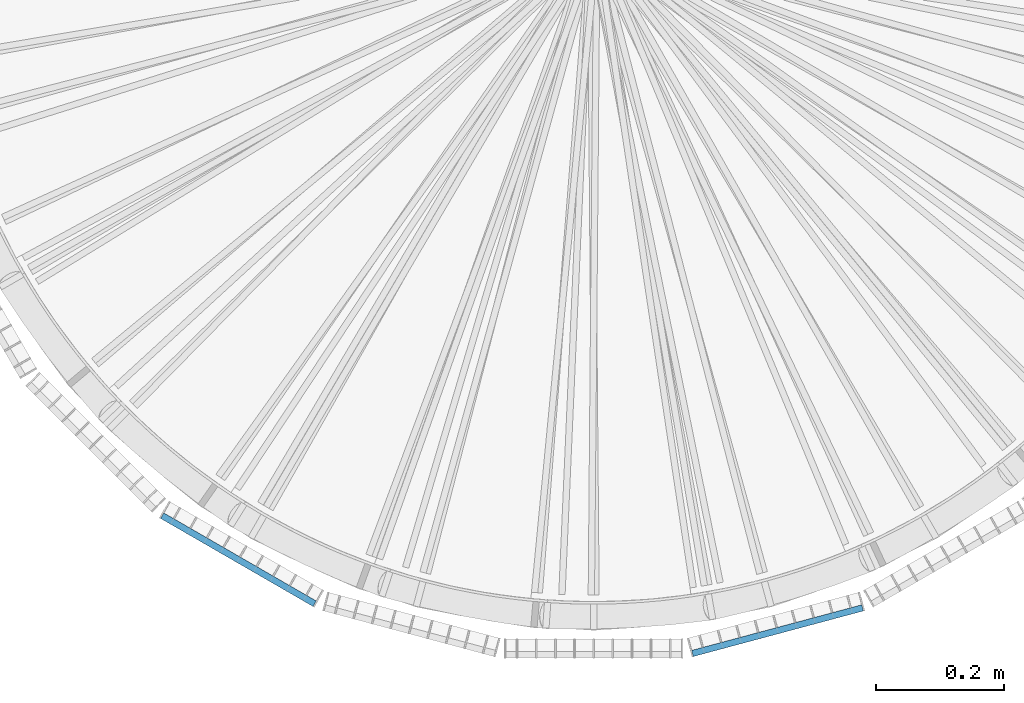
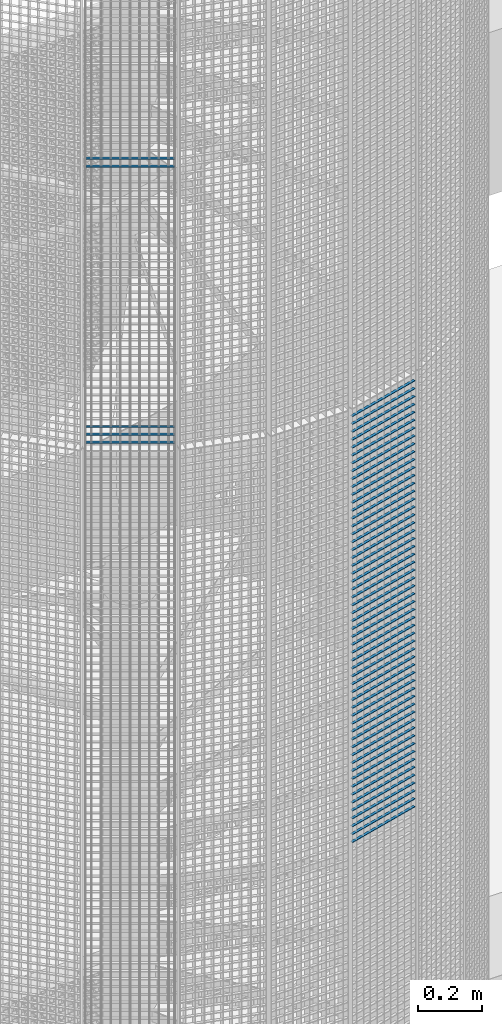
# One storey, part 140 of 1148: 60 beams, 2 elements without a shape of their own.
"""IFC2X3 building model written with IfcOpenShell, lengths in millimetres."""

from ifc_helpers import new_model, si_unit, frame, origin_with_axes, origin_2d_with_axis, place, context, subcontext, project, spatial, rectangle, extrude, material, type_object, element, aggregate, save


model = new_model("IFC2X3")

# Units and contexts
model_context = context("Model", 3, precision=1e-05, world=origin_with_axes())
body_context = subcontext(model_context, "Body", "Model", "MODEL_VIEW")
ifc_project = project(units=[si_unit("LENGTHUNIT", "METRE", prefix="MILLI"), si_unit("AREAUNIT", "SQUARE_METRE"), si_unit("VOLUMEUNIT", "CUBIC_METRE"), si_unit("MASSUNIT", "GRAM", prefix="KILO"), si_unit("TIMEUNIT", "SECOND"), si_unit("PLANEANGLEUNIT", "RADIAN"), si_unit("SOLIDANGLEUNIT", "STERADIAN"), si_unit("THERMODYNAMICTEMPERATUREUNIT", "DEGREE_CELSIUS"), si_unit("LUMINOUSINTENSITYUNIT", "LUMEN")], contexts=[model_context])

# Site, building, storey
site_placement = place(None, origin_with_axes())
site = spatial("IfcSite", under=ifc_project, at=site_placement, Name="Undefined", CompositionType="ELEMENT")
building_placement = place(site_placement, origin_with_axes())
building = spatial("IfcBuilding", under=site, at=building_placement, Name="Undefined", CompositionType="ELEMENT")
storey_placement = place(building_placement, origin_with_axes())
storey = spatial("IfcBuildingStorey", under=building, at=storey_placement, Name="Undefined", CompositionType="ELEMENT", Elevation=0.0)

# Assembly, beams
assembly_1_placement = place(storey_placement, origin_with_axes())
assembly_1 = element("IfcElementAssembly", 1, at=assembly_1_placement, inside=storey, Name="BORDURE", AssemblyPlace="NOTDEFINED", PredefinedType="NOTDEFINED")
ifc_material = material(Name="STEEL/S235JR")
beam_type = type_object("IfcBeamType", Name="PL2*10", PredefinedType="NOTDEFINED")
beam_1_placement = place(assembly_1_placement, frame((-676.248044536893, -895.303964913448, 16080.0), z_axis=(-0.49999999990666, -0.866025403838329, 0.0), x_axis=(0.866025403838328, -0.49999999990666, 0.0)))
beam_1 = element("IfcBeam", 2, at=beam_1_placement, type_object=beam_type, material=ifc_material, Name="ENTRETOISE", context=body_context, shape_type="SweptSolid", body=[
    extrude(rectangle(XDim=2.0, YDim=10.0, at=origin_2d_with_axis()), frame((275.999999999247, 9.09494701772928e-13, 1.53210777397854e-14), z_axis=(-1.0, 0.0, 0.0), x_axis=(0.0, -1.0, 0.0)), (0.0, 0.0, 1.0), 276.0),
])
beam_2_placement = place(assembly_1_placement, frame((-676.248044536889, -895.30396491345, 15090.0), z_axis=(-0.49999999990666, -0.866025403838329, 0.0), x_axis=(0.866025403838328, -0.49999999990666, 0.0)))
beam_2 = element("IfcBeam", 3, at=beam_2_placement, type_object=beam_type, material=ifc_material, Name="ENTRETOISE", context=body_context, shape_type="SweptSolid", body=[
    extrude(rectangle(XDim=2.0, YDim=10.0, at=origin_2d_with_axis()), frame((275.999999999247, 9.09494701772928e-13, 1.53210777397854e-14), z_axis=(-1.0, 0.0, 0.0), x_axis=(0.0, -1.0, 0.0)), (0.0, 0.0, 1.0), 276.0),
])
beam_3_placement = place(assembly_1_placement, frame((-676.248044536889, -895.30396491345, 15060.0), z_axis=(-0.49999999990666, -0.866025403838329, 0.0), x_axis=(0.866025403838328, -0.49999999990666, 0.0)))
beam_3 = element("IfcBeam", 4, at=beam_3_placement, type_object=beam_type, material=ifc_material, Name="ENTRETOISE", context=body_context, shape_type="SweptSolid", body=[
    extrude(rectangle(XDim=2.0, YDim=10.0, at=origin_2d_with_axis()), frame((275.999999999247, 9.09494701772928e-13, 1.53210777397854e-14), z_axis=(-1.0, 0.0, 0.0), x_axis=(0.0, -1.0, 0.0)), (0.0, 0.0, 1.0), 276.0),
])
beam_4_placement = place(assembly_1_placement, frame((-676.248044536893, -895.303964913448, 16110.0), z_axis=(-0.49999999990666, -0.866025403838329, 0.0), x_axis=(0.866025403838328, -0.49999999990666, 0.0)))
beam_4 = element("IfcBeam", 5, at=beam_4_placement, type_object=beam_type, material=ifc_material, Name="ENTRETOISE", context=body_context, shape_type="SweptSolid", body=[
    extrude(rectangle(XDim=2.0, YDim=10.0, at=origin_2d_with_axis()), frame((275.999999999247, 9.09494701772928e-13, 1.53210777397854e-14), z_axis=(-1.0, 0.0, 0.0), x_axis=(0.0, -1.0, 0.0)), (0.0, 0.0, 1.0), 276.0),
])
beam_5_placement = place(assembly_1_placement, frame((-676.248044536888, -895.30396491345, 15030.0), z_axis=(-0.49999999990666, -0.866025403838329, 0.0), x_axis=(0.866025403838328, -0.49999999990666, 0.0)))
beam_5 = element("IfcBeam", 6, at=beam_5_placement, type_object=beam_type, material=ifc_material, Name="ENTRETOISE", context=body_context, shape_type="SweptSolid", body=[
    extrude(rectangle(XDim=2.0, YDim=10.0, at=origin_2d_with_axis()), frame((275.999999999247, 9.09494701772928e-13, 1.53210777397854e-14), z_axis=(-1.0, 0.0, 0.0), x_axis=(0.0, -1.0, 0.0)), (0.0, 0.0, 1.0), 276.0),
])
aggregate(assembly_1, [beam_1, beam_2, beam_3, beam_4, beam_5])

assembly_2_placement = place(storey_placement, origin_with_axes())
assembly_2 = element("IfcElementAssembly", 7, at=assembly_2_placement, inside=storey, Name="BORDURE", AssemblyPlace="NOTDEFINED", PredefinedType="NOTDEFINED")
beam_6_placement = place(assembly_2_placement, frame((154.895926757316, -1111.25508286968, 14970.0), z_axis=(0.258819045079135, -0.965925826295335, 0.0), x_axis=(0.965925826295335, 0.258819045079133, 0.0)))
beam_6 = element("IfcBeam", 8, at=beam_6_placement, type_object=beam_type, material=ifc_material, Name="ENTRETOISE", context=body_context, shape_type="SweptSolid", body=[
    extrude(rectangle(XDim=2.0, YDim=10.0, at=origin_2d_with_axis()), frame((275.999999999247, 9.09494701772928e-13, 1.53210777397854e-14), z_axis=(-1.0, 0.0, 0.0), x_axis=(0.0, -1.0, 0.0)), (0.0, 0.0, 1.0), 276.0),
])
beam_7_placement = place(assembly_2_placement, frame((154.895926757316, -1111.25508286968, 14940.0), z_axis=(0.258819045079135, -0.965925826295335, 0.0), x_axis=(0.965925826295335, 0.258819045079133, 0.0)))
beam_7 = element("IfcBeam", 9, at=beam_7_placement, type_object=beam_type, material=ifc_material, Name="ENTRETOISE", context=body_context, shape_type="SweptSolid", body=[
    extrude(rectangle(XDim=2.0, YDim=10.0, at=origin_2d_with_axis()), frame((275.999999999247, 9.09494701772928e-13, 1.53210777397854e-14), z_axis=(-1.0, 0.0, 0.0), x_axis=(0.0, -1.0, 0.0)), (0.0, 0.0, 1.0), 276.0),
])
beam_8_placement = place(assembly_2_placement, frame((154.895926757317, -1111.25508286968, 14910.0), z_axis=(0.258819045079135, -0.965925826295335, 0.0), x_axis=(0.965925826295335, 0.258819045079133, 0.0)))
beam_8 = element("IfcBeam", 10, at=beam_8_placement, type_object=beam_type, material=ifc_material, Name="ENTRETOISE", context=body_context, shape_type="SweptSolid", body=[
    extrude(rectangle(XDim=2.0, YDim=10.0, at=origin_2d_with_axis()), frame((275.999999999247, 9.09494701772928e-13, 1.53210777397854e-14), z_axis=(-1.0, 0.0, 0.0), x_axis=(0.0, -1.0, 0.0)), (0.0, 0.0, 1.0), 276.0),
])
beam_9_placement = place(assembly_2_placement, frame((154.895926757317, -1111.25508286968, 14880.0), z_axis=(0.258819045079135, -0.965925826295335, 0.0), x_axis=(0.965925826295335, 0.258819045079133, 0.0)))
beam_9 = element("IfcBeam", 11, at=beam_9_placement, type_object=beam_type, material=ifc_material, Name="ENTRETOISE", context=body_context, shape_type="SweptSolid", body=[
    extrude(rectangle(XDim=2.0, YDim=10.0, at=origin_2d_with_axis()), frame((275.999999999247, 9.09494701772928e-13, 1.53210777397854e-14), z_axis=(-1.0, 0.0, 0.0), x_axis=(0.0, -1.0, 0.0)), (0.0, 0.0, 1.0), 276.0),
])
beam_10_placement = place(assembly_2_placement, frame((154.895926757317, -1111.25508286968, 14850.0), z_axis=(0.258819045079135, -0.965925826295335, 0.0), x_axis=(0.965925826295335, 0.258819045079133, 0.0)))
beam_10 = element("IfcBeam", 12, at=beam_10_placement, type_object=beam_type, material=ifc_material, Name="ENTRETOISE", context=body_context, shape_type="SweptSolid", body=[
    extrude(rectangle(XDim=2.0, YDim=10.0, at=origin_2d_with_axis()), frame((275.999999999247, 9.09494701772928e-13, 1.53210777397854e-14), z_axis=(-1.0, 0.0, 0.0), x_axis=(0.0, -1.0, 0.0)), (0.0, 0.0, 1.0), 276.0),
])
beam_11_placement = place(assembly_2_placement, frame((154.895926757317, -1111.25508286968, 14820.0), z_axis=(0.258819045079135, -0.965925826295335, 0.0), x_axis=(0.965925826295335, 0.258819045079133, 0.0)))
beam_11 = element("IfcBeam", 13, at=beam_11_placement, type_object=beam_type, material=ifc_material, Name="ENTRETOISE", context=body_context, shape_type="SweptSolid", body=[
    extrude(rectangle(XDim=2.0, YDim=10.0, at=origin_2d_with_axis()), frame((275.999999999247, 9.09494701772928e-13, 1.53210777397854e-14), z_axis=(-1.0, 0.0, 0.0), x_axis=(0.0, -1.0, 0.0)), (0.0, 0.0, 1.0), 276.0),
])
beam_12_placement = place(assembly_2_placement, frame((154.895926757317, -1111.25508286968, 14790.0), z_axis=(0.258819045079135, -0.965925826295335, 0.0), x_axis=(0.965925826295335, 0.258819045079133, 0.0)))
beam_12 = element("IfcBeam", 14, at=beam_12_placement, type_object=beam_type, material=ifc_material, Name="ENTRETOISE", context=body_context, shape_type="SweptSolid", body=[
    extrude(rectangle(XDim=2.0, YDim=10.0, at=origin_2d_with_axis()), frame((275.999999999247, 9.09494701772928e-13, 1.53210777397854e-14), z_axis=(-1.0, 0.0, 0.0), x_axis=(0.0, -1.0, 0.0)), (0.0, 0.0, 1.0), 276.0),
])
beam_13_placement = place(assembly_2_placement, frame((154.895926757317, -1111.25508286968, 14760.0), z_axis=(0.258819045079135, -0.965925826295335, 0.0), x_axis=(0.965925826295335, 0.258819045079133, 0.0)))
beam_13 = element("IfcBeam", 15, at=beam_13_placement, type_object=beam_type, material=ifc_material, Name="ENTRETOISE", context=body_context, shape_type="SweptSolid", body=[
    extrude(rectangle(XDim=2.0, YDim=10.0, at=origin_2d_with_axis()), frame((275.999999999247, 9.09494701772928e-13, 1.53210777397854e-14), z_axis=(-1.0, 0.0, 0.0), x_axis=(0.0, -1.0, 0.0)), (0.0, 0.0, 1.0), 276.0),
])
beam_14_placement = place(assembly_2_placement, frame((154.895926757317, -1111.25508286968, 14730.0), z_axis=(0.258819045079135, -0.965925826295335, 0.0), x_axis=(0.965925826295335, 0.258819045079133, 0.0)))
beam_14 = element("IfcBeam", 16, at=beam_14_placement, type_object=beam_type, material=ifc_material, Name="ENTRETOISE", context=body_context, shape_type="SweptSolid", body=[
    extrude(rectangle(XDim=2.0, YDim=10.0, at=origin_2d_with_axis()), frame((275.999999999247, 9.09494701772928e-13, 1.53210777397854e-14), z_axis=(-1.0, 0.0, 0.0), x_axis=(0.0, -1.0, 0.0)), (0.0, 0.0, 1.0), 276.0),
])
beam_15_placement = place(assembly_2_placement, frame((154.895926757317, -1111.25508286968, 14700.0), z_axis=(0.258819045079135, -0.965925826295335, 0.0), x_axis=(0.965925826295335, 0.258819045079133, 0.0)))
beam_15 = element("IfcBeam", 17, at=beam_15_placement, type_object=beam_type, material=ifc_material, Name="ENTRETOISE", context=body_context, shape_type="SweptSolid", body=[
    extrude(rectangle(XDim=2.0, YDim=10.0, at=origin_2d_with_axis()), frame((275.999999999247, 9.09494701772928e-13, 1.53210777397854e-14), z_axis=(-1.0, 0.0, 0.0), x_axis=(0.0, -1.0, 0.0)), (0.0, 0.0, 1.0), 276.0),
])
beam_16_placement = place(assembly_2_placement, frame((154.895926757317, -1111.25508286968, 14670.0), z_axis=(0.258819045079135, -0.965925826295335, 0.0), x_axis=(0.965925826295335, 0.258819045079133, 0.0)))
beam_16 = element("IfcBeam", 18, at=beam_16_placement, type_object=beam_type, material=ifc_material, Name="ENTRETOISE", context=body_context, shape_type="SweptSolid", body=[
    extrude(rectangle(XDim=2.0, YDim=10.0, at=origin_2d_with_axis()), frame((275.999999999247, 9.09494701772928e-13, 1.53210777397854e-14), z_axis=(-1.0, 0.0, 0.0), x_axis=(0.0, -1.0, 0.0)), (0.0, 0.0, 1.0), 276.0),
])
beam_17_placement = place(assembly_2_placement, frame((154.895926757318, -1111.25508286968, 14640.0), z_axis=(0.258819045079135, -0.965925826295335, 0.0), x_axis=(0.965925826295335, 0.258819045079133, 0.0)))
beam_17 = element("IfcBeam", 19, at=beam_17_placement, type_object=beam_type, material=ifc_material, Name="ENTRETOISE", context=body_context, shape_type="SweptSolid", body=[
    extrude(rectangle(XDim=2.0, YDim=10.0, at=origin_2d_with_axis()), frame((275.999999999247, 9.09494701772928e-13, 1.53210777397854e-14), z_axis=(-1.0, 0.0, 0.0), x_axis=(0.0, -1.0, 0.0)), (0.0, 0.0, 1.0), 276.0),
])
beam_18_placement = place(assembly_2_placement, frame((154.895926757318, -1111.25508286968, 14610.0), z_axis=(0.258819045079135, -0.965925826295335, 0.0), x_axis=(0.965925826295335, 0.258819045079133, 0.0)))
beam_18 = element("IfcBeam", 20, at=beam_18_placement, type_object=beam_type, material=ifc_material, Name="ENTRETOISE", context=body_context, shape_type="SweptSolid", body=[
    extrude(rectangle(XDim=2.0, YDim=10.0, at=origin_2d_with_axis()), frame((275.999999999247, 9.09494701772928e-13, 1.53210777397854e-14), z_axis=(-1.0, 0.0, 0.0), x_axis=(0.0, -1.0, 0.0)), (0.0, 0.0, 1.0), 276.0),
])
beam_19_placement = place(assembly_2_placement, frame((154.895926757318, -1111.25508286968, 14580.0), z_axis=(0.258819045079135, -0.965925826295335, 0.0), x_axis=(0.965925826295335, 0.258819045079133, 0.0)))
beam_19 = element("IfcBeam", 21, at=beam_19_placement, type_object=beam_type, material=ifc_material, Name="ENTRETOISE", context=body_context, shape_type="SweptSolid", body=[
    extrude(rectangle(XDim=2.0, YDim=10.0, at=origin_2d_with_axis()), frame((275.999999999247, 9.09494701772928e-13, 1.53210777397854e-14), z_axis=(-1.0, 0.0, 0.0), x_axis=(0.0, -1.0, 0.0)), (0.0, 0.0, 1.0), 276.0),
])
beam_20_placement = place(assembly_2_placement, frame((154.895926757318, -1111.25508286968, 14550.0), z_axis=(0.258819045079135, -0.965925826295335, 0.0), x_axis=(0.965925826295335, 0.258819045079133, 0.0)))
beam_20 = element("IfcBeam", 22, at=beam_20_placement, type_object=beam_type, material=ifc_material, Name="ENTRETOISE", context=body_context, shape_type="SweptSolid", body=[
    extrude(rectangle(XDim=2.0, YDim=10.0, at=origin_2d_with_axis()), frame((275.999999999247, 9.09494701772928e-13, 1.53210777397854e-14), z_axis=(-1.0, 0.0, 0.0), x_axis=(0.0, -1.0, 0.0)), (0.0, 0.0, 1.0), 276.0),
])
beam_21_placement = place(assembly_2_placement, frame((154.895926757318, -1111.25508286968, 14520.0), z_axis=(0.258819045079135, -0.965925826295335, 0.0), x_axis=(0.965925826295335, 0.258819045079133, 0.0)))
beam_21 = element("IfcBeam", 23, at=beam_21_placement, type_object=beam_type, material=ifc_material, Name="ENTRETOISE", context=body_context, shape_type="SweptSolid", body=[
    extrude(rectangle(XDim=2.0, YDim=10.0, at=origin_2d_with_axis()), frame((275.999999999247, 9.09494701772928e-13, 1.53210777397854e-14), z_axis=(-1.0, 0.0, 0.0), x_axis=(0.0, -1.0, 0.0)), (0.0, 0.0, 1.0), 276.0),
])
beam_22_placement = place(assembly_2_placement, frame((154.895926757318, -1111.25508286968, 14490.0), z_axis=(0.258819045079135, -0.965925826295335, 0.0), x_axis=(0.965925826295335, 0.258819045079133, 0.0)))
beam_22 = element("IfcBeam", 24, at=beam_22_placement, type_object=beam_type, material=ifc_material, Name="ENTRETOISE", context=body_context, shape_type="SweptSolid", body=[
    extrude(rectangle(XDim=2.0, YDim=10.0, at=origin_2d_with_axis()), frame((275.999999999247, 9.09494701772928e-13, 1.53210777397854e-14), z_axis=(-1.0, 0.0, 0.0), x_axis=(0.0, -1.0, 0.0)), (0.0, 0.0, 1.0), 276.0),
])
beam_23_placement = place(assembly_2_placement, frame((154.895926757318, -1111.25508286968, 14460.0), z_axis=(0.258819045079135, -0.965925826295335, 0.0), x_axis=(0.965925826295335, 0.258819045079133, 0.0)))
beam_23 = element("IfcBeam", 25, at=beam_23_placement, type_object=beam_type, material=ifc_material, Name="ENTRETOISE", context=body_context, shape_type="SweptSolid", body=[
    extrude(rectangle(XDim=2.0, YDim=10.0, at=origin_2d_with_axis()), frame((275.999999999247, 9.09494701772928e-13, 1.53210777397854e-14), z_axis=(-1.0, 0.0, 0.0), x_axis=(0.0, -1.0, 0.0)), (0.0, 0.0, 1.0), 276.0),
])
beam_24_placement = place(assembly_2_placement, frame((154.895926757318, -1111.25508286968, 14430.0), z_axis=(0.258819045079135, -0.965925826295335, 0.0), x_axis=(0.965925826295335, 0.258819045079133, 0.0)))
beam_24 = element("IfcBeam", 26, at=beam_24_placement, type_object=beam_type, material=ifc_material, Name="ENTRETOISE", context=body_context, shape_type="SweptSolid", body=[
    extrude(rectangle(XDim=2.0, YDim=10.0, at=origin_2d_with_axis()), frame((275.999999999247, 9.09494701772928e-13, 1.53210777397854e-14), z_axis=(-1.0, 0.0, 0.0), x_axis=(0.0, -1.0, 0.0)), (0.0, 0.0, 1.0), 276.0),
])
beam_25_placement = place(assembly_2_placement, frame((154.895926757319, -1111.25508286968, 14400.0), z_axis=(0.258819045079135, -0.965925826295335, 0.0), x_axis=(0.965925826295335, 0.258819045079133, 0.0)))
beam_25 = element("IfcBeam", 27, at=beam_25_placement, type_object=beam_type, material=ifc_material, Name="ENTRETOISE", context=body_context, shape_type="SweptSolid", body=[
    extrude(rectangle(XDim=2.0, YDim=10.0, at=origin_2d_with_axis()), frame((275.999999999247, 9.09494701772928e-13, 1.53210777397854e-14), z_axis=(-1.0, 0.0, 0.0), x_axis=(0.0, -1.0, 0.0)), (0.0, 0.0, 1.0), 276.0),
])
beam_26_placement = place(assembly_2_placement, frame((154.895926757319, -1111.25508286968, 14370.0), z_axis=(0.258819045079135, -0.965925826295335, 0.0), x_axis=(0.965925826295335, 0.258819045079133, 0.0)))
beam_26 = element("IfcBeam", 28, at=beam_26_placement, type_object=beam_type, material=ifc_material, Name="ENTRETOISE", context=body_context, shape_type="SweptSolid", body=[
    extrude(rectangle(XDim=2.0, YDim=10.0, at=origin_2d_with_axis()), frame((275.999999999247, 9.09494701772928e-13, 1.53210777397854e-14), z_axis=(-1.0, 0.0, 0.0), x_axis=(0.0, -1.0, 0.0)), (0.0, 0.0, 1.0), 276.0),
])
beam_27_placement = place(assembly_2_placement, frame((154.895926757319, -1111.25508286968, 14340.0), z_axis=(0.258819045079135, -0.965925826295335, 0.0), x_axis=(0.965925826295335, 0.258819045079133, 0.0)))
beam_27 = element("IfcBeam", 29, at=beam_27_placement, type_object=beam_type, material=ifc_material, Name="ENTRETOISE", context=body_context, shape_type="SweptSolid", body=[
    extrude(rectangle(XDim=2.0, YDim=10.0, at=origin_2d_with_axis()), frame((275.999999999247, 9.09494701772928e-13, 1.53210777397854e-14), z_axis=(-1.0, 0.0, 0.0), x_axis=(0.0, -1.0, 0.0)), (0.0, 0.0, 1.0), 276.0),
])
beam_28_placement = place(assembly_2_placement, frame((154.895926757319, -1111.25508286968, 14310.0), z_axis=(0.258819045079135, -0.965925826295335, 0.0), x_axis=(0.965925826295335, 0.258819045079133, 0.0)))
beam_28 = element("IfcBeam", 30, at=beam_28_placement, type_object=beam_type, material=ifc_material, Name="ENTRETOISE", context=body_context, shape_type="SweptSolid", body=[
    extrude(rectangle(XDim=2.0, YDim=10.0, at=origin_2d_with_axis()), frame((275.999999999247, 9.09494701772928e-13, 1.53210777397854e-14), z_axis=(-1.0, 0.0, 0.0), x_axis=(0.0, -1.0, 0.0)), (0.0, 0.0, 1.0), 276.0),
])
beam_29_placement = place(assembly_2_placement, frame((154.895926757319, -1111.25508286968, 14280.0), z_axis=(0.258819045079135, -0.965925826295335, 0.0), x_axis=(0.965925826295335, 0.258819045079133, 0.0)))
beam_29 = element("IfcBeam", 31, at=beam_29_placement, type_object=beam_type, material=ifc_material, Name="ENTRETOISE", context=body_context, shape_type="SweptSolid", body=[
    extrude(rectangle(XDim=2.0, YDim=10.0, at=origin_2d_with_axis()), frame((275.999999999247, 9.09494701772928e-13, 1.53210777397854e-14), z_axis=(-1.0, 0.0, 0.0), x_axis=(0.0, -1.0, 0.0)), (0.0, 0.0, 1.0), 276.0),
])
beam_30_placement = place(assembly_2_placement, frame((154.895926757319, -1111.25508286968, 14250.0), z_axis=(0.258819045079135, -0.965925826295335, 0.0), x_axis=(0.965925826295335, 0.258819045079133, 0.0)))
beam_30 = element("IfcBeam", 32, at=beam_30_placement, type_object=beam_type, material=ifc_material, Name="ENTRETOISE", context=body_context, shape_type="SweptSolid", body=[
    extrude(rectangle(XDim=2.0, YDim=10.0, at=origin_2d_with_axis()), frame((275.999999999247, 9.09494701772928e-13, 1.53210777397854e-14), z_axis=(-1.0, 0.0, 0.0), x_axis=(0.0, -1.0, 0.0)), (0.0, 0.0, 1.0), 276.0),
])
beam_31_placement = place(assembly_2_placement, frame((154.895926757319, -1111.25508286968, 14220.0), z_axis=(0.258819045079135, -0.965925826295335, 0.0), x_axis=(0.965925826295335, 0.258819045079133, 0.0)))
beam_31 = element("IfcBeam", 33, at=beam_31_placement, type_object=beam_type, material=ifc_material, Name="ENTRETOISE", context=body_context, shape_type="SweptSolid", body=[
    extrude(rectangle(XDim=2.0, YDim=10.0, at=origin_2d_with_axis()), frame((275.999999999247, 9.09494701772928e-13, 1.53210777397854e-14), z_axis=(-1.0, 0.0, 0.0), x_axis=(0.0, -1.0, 0.0)), (0.0, 0.0, 1.0), 276.0),
])
beam_32_placement = place(assembly_2_placement, frame((154.895926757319, -1111.25508286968, 14190.0), z_axis=(0.258819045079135, -0.965925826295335, 0.0), x_axis=(0.965925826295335, 0.258819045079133, 0.0)))
beam_32 = element("IfcBeam", 34, at=beam_32_placement, type_object=beam_type, material=ifc_material, Name="ENTRETOISE", context=body_context, shape_type="SweptSolid", body=[
    extrude(rectangle(XDim=2.0, YDim=10.0, at=origin_2d_with_axis()), frame((275.999999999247, 9.09494701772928e-13, 1.53210777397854e-14), z_axis=(-1.0, 0.0, 0.0), x_axis=(0.0, -1.0, 0.0)), (0.0, 0.0, 1.0), 276.0),
])
beam_33_placement = place(assembly_2_placement, frame((154.895926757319, -1111.25508286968, 14160.0), z_axis=(0.258819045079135, -0.965925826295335, 0.0), x_axis=(0.965925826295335, 0.258819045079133, 0.0)))
beam_33 = element("IfcBeam", 35, at=beam_33_placement, type_object=beam_type, material=ifc_material, Name="ENTRETOISE", context=body_context, shape_type="SweptSolid", body=[
    extrude(rectangle(XDim=2.0, YDim=10.0, at=origin_2d_with_axis()), frame((275.999999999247, 9.09494701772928e-13, 1.53210777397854e-14), z_axis=(-1.0, 0.0, 0.0), x_axis=(0.0, -1.0, 0.0)), (0.0, 0.0, 1.0), 276.0),
])
beam_34_placement = place(assembly_2_placement, frame((154.89592675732, -1111.25508286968, 14130.0), z_axis=(0.258819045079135, -0.965925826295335, 0.0), x_axis=(0.965925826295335, 0.258819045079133, 0.0)))
beam_34 = element("IfcBeam", 36, at=beam_34_placement, type_object=beam_type, material=ifc_material, Name="ENTRETOISE", context=body_context, shape_type="SweptSolid", body=[
    extrude(rectangle(XDim=2.0, YDim=10.0, at=origin_2d_with_axis()), frame((275.999999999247, 9.09494701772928e-13, 1.53210777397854e-14), z_axis=(-1.0, 0.0, 0.0), x_axis=(0.0, -1.0, 0.0)), (0.0, 0.0, 1.0), 276.0),
])
beam_35_placement = place(assembly_2_placement, frame((154.89592675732, -1111.25508286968, 14100.0), z_axis=(0.258819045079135, -0.965925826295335, 0.0), x_axis=(0.965925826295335, 0.258819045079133, 0.0)))
beam_35 = element("IfcBeam", 37, at=beam_35_placement, type_object=beam_type, material=ifc_material, Name="ENTRETOISE", context=body_context, shape_type="SweptSolid", body=[
    extrude(rectangle(XDim=2.0, YDim=10.0, at=origin_2d_with_axis()), frame((275.999999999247, 9.09494701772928e-13, 1.53210777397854e-14), z_axis=(-1.0, 0.0, 0.0), x_axis=(0.0, -1.0, 0.0)), (0.0, 0.0, 1.0), 276.0),
])
beam_36_placement = place(assembly_2_placement, frame((154.89592675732, -1111.25508286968, 14070.0), z_axis=(0.258819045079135, -0.965925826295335, 0.0), x_axis=(0.965925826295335, 0.258819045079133, 0.0)))
beam_36 = element("IfcBeam", 38, at=beam_36_placement, type_object=beam_type, material=ifc_material, Name="ENTRETOISE", context=body_context, shape_type="SweptSolid", body=[
    extrude(rectangle(XDim=2.0, YDim=10.0, at=origin_2d_with_axis()), frame((275.999999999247, 9.09494701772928e-13, 1.53210777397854e-14), z_axis=(-1.0, 0.0, 0.0), x_axis=(0.0, -1.0, 0.0)), (0.0, 0.0, 1.0), 276.0),
])
beam_37_placement = place(assembly_2_placement, frame((154.89592675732, -1111.25508286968, 14040.0), z_axis=(0.258819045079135, -0.965925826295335, 0.0), x_axis=(0.965925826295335, 0.258819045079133, 0.0)))
beam_37 = element("IfcBeam", 39, at=beam_37_placement, type_object=beam_type, material=ifc_material, Name="ENTRETOISE", context=body_context, shape_type="SweptSolid", body=[
    extrude(rectangle(XDim=2.0, YDim=10.0, at=origin_2d_with_axis()), frame((275.999999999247, 9.09494701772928e-13, 1.53210777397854e-14), z_axis=(-1.0, 0.0, 0.0), x_axis=(0.0, -1.0, 0.0)), (0.0, 0.0, 1.0), 276.0),
])
beam_38_placement = place(assembly_2_placement, frame((154.89592675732, -1111.25508286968, 14010.0), z_axis=(0.258819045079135, -0.965925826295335, 0.0), x_axis=(0.965925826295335, 0.258819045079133, 0.0)))
beam_38 = element("IfcBeam", 40, at=beam_38_placement, type_object=beam_type, material=ifc_material, Name="ENTRETOISE", context=body_context, shape_type="SweptSolid", body=[
    extrude(rectangle(XDim=2.0, YDim=10.0, at=origin_2d_with_axis()), frame((275.999999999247, 9.09494701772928e-13, 1.53210777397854e-14), z_axis=(-1.0, 0.0, 0.0), x_axis=(0.0, -1.0, 0.0)), (0.0, 0.0, 1.0), 276.0),
])
beam_39_placement = place(assembly_2_placement, frame((154.89592675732, -1111.25508286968, 13980.0), z_axis=(0.258819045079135, -0.965925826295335, 0.0), x_axis=(0.965925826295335, 0.258819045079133, 0.0)))
beam_39 = element("IfcBeam", 41, at=beam_39_placement, type_object=beam_type, material=ifc_material, Name="ENTRETOISE", context=body_context, shape_type="SweptSolid", body=[
    extrude(rectangle(XDim=2.0, YDim=10.0, at=origin_2d_with_axis()), frame((275.999999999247, 9.09494701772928e-13, 1.53210777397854e-14), z_axis=(-1.0, 0.0, 0.0), x_axis=(0.0, -1.0, 0.0)), (0.0, 0.0, 1.0), 276.0),
])
beam_40_placement = place(assembly_2_placement, frame((154.89592675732, -1111.25508286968, 13950.0), z_axis=(0.258819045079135, -0.965925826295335, 0.0), x_axis=(0.965925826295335, 0.258819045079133, 0.0)))
beam_40 = element("IfcBeam", 42, at=beam_40_placement, type_object=beam_type, material=ifc_material, Name="ENTRETOISE", context=body_context, shape_type="SweptSolid", body=[
    extrude(rectangle(XDim=2.0, YDim=10.0, at=origin_2d_with_axis()), frame((275.999999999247, 9.09494701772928e-13, 1.53210777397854e-14), z_axis=(-1.0, 0.0, 0.0), x_axis=(0.0, -1.0, 0.0)), (0.0, 0.0, 1.0), 276.0),
])
beam_41_placement = place(assembly_2_placement, frame((154.89592675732, -1111.25508286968, 13920.0), z_axis=(0.258819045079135, -0.965925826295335, 0.0), x_axis=(0.965925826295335, 0.258819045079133, 0.0)))
beam_41 = element("IfcBeam", 43, at=beam_41_placement, type_object=beam_type, material=ifc_material, Name="ENTRETOISE", context=body_context, shape_type="SweptSolid", body=[
    extrude(rectangle(XDim=2.0, YDim=10.0, at=origin_2d_with_axis()), frame((275.999999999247, 9.09494701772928e-13, 1.53210777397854e-14), z_axis=(-1.0, 0.0, 0.0), x_axis=(0.0, -1.0, 0.0)), (0.0, 0.0, 1.0), 276.0),
])
beam_42_placement = place(assembly_2_placement, frame((154.89592675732, -1111.25508286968, 13890.0), z_axis=(0.258819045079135, -0.965925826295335, 0.0), x_axis=(0.965925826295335, 0.258819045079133, 0.0)))
beam_42 = element("IfcBeam", 44, at=beam_42_placement, type_object=beam_type, material=ifc_material, Name="ENTRETOISE", context=body_context, shape_type="SweptSolid", body=[
    extrude(rectangle(XDim=2.0, YDim=10.0, at=origin_2d_with_axis()), frame((275.999999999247, 9.09494701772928e-13, 1.53210777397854e-14), z_axis=(-1.0, 0.0, 0.0), x_axis=(0.0, -1.0, 0.0)), (0.0, 0.0, 1.0), 276.0),
])
beam_43_placement = place(assembly_2_placement, frame((154.89592675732, -1111.25508286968, 13860.0), z_axis=(0.258819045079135, -0.965925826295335, 0.0), x_axis=(0.965925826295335, 0.258819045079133, 0.0)))
beam_43 = element("IfcBeam", 45, at=beam_43_placement, type_object=beam_type, material=ifc_material, Name="ENTRETOISE", context=body_context, shape_type="SweptSolid", body=[
    extrude(rectangle(XDim=2.0, YDim=10.0, at=origin_2d_with_axis()), frame((275.999999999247, 9.09494701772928e-13, 1.53210777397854e-14), z_axis=(-1.0, 0.0, 0.0), x_axis=(0.0, -1.0, 0.0)), (0.0, 0.0, 1.0), 276.0),
])
beam_44_placement = place(assembly_2_placement, frame((154.89592675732, -1111.25508286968, 13830.0), z_axis=(0.258819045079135, -0.965925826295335, 0.0), x_axis=(0.965925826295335, 0.258819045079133, 0.0)))
beam_44 = element("IfcBeam", 46, at=beam_44_placement, type_object=beam_type, material=ifc_material, Name="ENTRETOISE", context=body_context, shape_type="SweptSolid", body=[
    extrude(rectangle(XDim=2.0, YDim=10.0, at=origin_2d_with_axis()), frame((275.999999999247, 9.09494701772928e-13, 1.53210777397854e-14), z_axis=(-1.0, 0.0, 0.0), x_axis=(0.0, -1.0, 0.0)), (0.0, 0.0, 1.0), 276.0),
])
beam_45_placement = place(assembly_2_placement, frame((154.89592675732, -1111.25508286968, 13800.0), z_axis=(0.258819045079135, -0.965925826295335, 0.0), x_axis=(0.965925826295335, 0.258819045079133, 0.0)))
beam_45 = element("IfcBeam", 47, at=beam_45_placement, type_object=beam_type, material=ifc_material, Name="ENTRETOISE", context=body_context, shape_type="SweptSolid", body=[
    extrude(rectangle(XDim=2.0, YDim=10.0, at=origin_2d_with_axis()), frame((275.999999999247, 9.09494701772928e-13, 1.53210777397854e-14), z_axis=(-1.0, 0.0, 0.0), x_axis=(0.0, -1.0, 0.0)), (0.0, 0.0, 1.0), 276.0),
])
beam_46_placement = place(assembly_2_placement, frame((154.895926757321, -1111.25508286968, 13770.0), z_axis=(0.258819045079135, -0.965925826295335, 0.0), x_axis=(0.965925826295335, 0.258819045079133, 0.0)))
beam_46 = element("IfcBeam", 48, at=beam_46_placement, type_object=beam_type, material=ifc_material, Name="ENTRETOISE", context=body_context, shape_type="SweptSolid", body=[
    extrude(rectangle(XDim=2.0, YDim=10.0, at=origin_2d_with_axis()), frame((275.999999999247, 9.09494701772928e-13, 1.53210777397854e-14), z_axis=(-1.0, 0.0, 0.0), x_axis=(0.0, -1.0, 0.0)), (0.0, 0.0, 1.0), 276.0),
])
beam_47_placement = place(assembly_2_placement, frame((154.895926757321, -1111.25508286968, 13740.0), z_axis=(0.258819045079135, -0.965925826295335, 0.0), x_axis=(0.965925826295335, 0.258819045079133, 0.0)))
beam_47 = element("IfcBeam", 49, at=beam_47_placement, type_object=beam_type, material=ifc_material, Name="ENTRETOISE", context=body_context, shape_type="SweptSolid", body=[
    extrude(rectangle(XDim=2.0, YDim=10.0, at=origin_2d_with_axis()), frame((275.999999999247, 9.09494701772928e-13, 1.53210777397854e-14), z_axis=(-1.0, 0.0, 0.0), x_axis=(0.0, -1.0, 0.0)), (0.0, 0.0, 1.0), 276.0),
])
beam_48_placement = place(assembly_2_placement, frame((154.895926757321, -1111.25508286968, 13710.0), z_axis=(0.258819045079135, -0.965925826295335, 0.0), x_axis=(0.965925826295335, 0.258819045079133, 0.0)))
beam_48 = element("IfcBeam", 50, at=beam_48_placement, type_object=beam_type, material=ifc_material, Name="ENTRETOISE", context=body_context, shape_type="SweptSolid", body=[
    extrude(rectangle(XDim=2.0, YDim=10.0, at=origin_2d_with_axis()), frame((275.999999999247, 9.09494701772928e-13, 1.53210777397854e-14), z_axis=(-1.0, 0.0, 0.0), x_axis=(0.0, -1.0, 0.0)), (0.0, 0.0, 1.0), 276.0),
])
beam_49_placement = place(assembly_2_placement, frame((154.895926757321, -1111.25508286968, 13680.0), z_axis=(0.258819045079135, -0.965925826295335, 0.0), x_axis=(0.965925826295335, 0.258819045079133, 0.0)))
beam_49 = element("IfcBeam", 51, at=beam_49_placement, type_object=beam_type, material=ifc_material, Name="ENTRETOISE", context=body_context, shape_type="SweptSolid", body=[
    extrude(rectangle(XDim=2.0, YDim=10.0, at=origin_2d_with_axis()), frame((275.999999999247, 9.09494701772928e-13, 1.53210777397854e-14), z_axis=(-1.0, 0.0, 0.0), x_axis=(0.0, -1.0, 0.0)), (0.0, 0.0, 1.0), 276.0),
])
beam_50_placement = place(assembly_2_placement, frame((154.895926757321, -1111.25508286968, 13650.0), z_axis=(0.258819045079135, -0.965925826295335, 0.0), x_axis=(0.965925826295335, 0.258819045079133, 0.0)))
beam_50 = element("IfcBeam", 52, at=beam_50_placement, type_object=beam_type, material=ifc_material, Name="ENTRETOISE", context=body_context, shape_type="SweptSolid", body=[
    extrude(rectangle(XDim=2.0, YDim=10.0, at=origin_2d_with_axis()), frame((275.999999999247, 9.09494701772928e-13, 1.53210777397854e-14), z_axis=(-1.0, 0.0, 0.0), x_axis=(0.0, -1.0, 0.0)), (0.0, 0.0, 1.0), 276.0),
])
beam_51_placement = place(assembly_2_placement, frame((154.895926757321, -1111.25508286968, 13620.0), z_axis=(0.258819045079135, -0.965925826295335, 0.0), x_axis=(0.965925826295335, 0.258819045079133, 0.0)))
beam_51 = element("IfcBeam", 53, at=beam_51_placement, type_object=beam_type, material=ifc_material, Name="ENTRETOISE", context=body_context, shape_type="SweptSolid", body=[
    extrude(rectangle(XDim=2.0, YDim=10.0, at=origin_2d_with_axis()), frame((275.999999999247, 9.09494701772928e-13, 1.53210777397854e-14), z_axis=(-1.0, 0.0, 0.0), x_axis=(0.0, -1.0, 0.0)), (0.0, 0.0, 1.0), 276.0),
])
beam_52_placement = place(assembly_2_placement, frame((154.895926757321, -1111.25508286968, 13590.0), z_axis=(0.258819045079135, -0.965925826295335, 0.0), x_axis=(0.965925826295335, 0.258819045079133, 0.0)))
beam_52 = element("IfcBeam", 54, at=beam_52_placement, type_object=beam_type, material=ifc_material, Name="ENTRETOISE", context=body_context, shape_type="SweptSolid", body=[
    extrude(rectangle(XDim=2.0, YDim=10.0, at=origin_2d_with_axis()), frame((275.999999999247, 9.09494701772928e-13, 1.53210777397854e-14), z_axis=(-1.0, 0.0, 0.0), x_axis=(0.0, -1.0, 0.0)), (0.0, 0.0, 1.0), 276.0),
])
beam_53_placement = place(assembly_2_placement, frame((154.895926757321, -1111.25508286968, 13560.0), z_axis=(0.258819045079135, -0.965925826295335, 0.0), x_axis=(0.965925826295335, 0.258819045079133, 0.0)))
beam_53 = element("IfcBeam", 55, at=beam_53_placement, type_object=beam_type, material=ifc_material, Name="ENTRETOISE", context=body_context, shape_type="SweptSolid", body=[
    extrude(rectangle(XDim=2.0, YDim=10.0, at=origin_2d_with_axis()), frame((275.999999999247, 9.09494701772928e-13, 1.53210777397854e-14), z_axis=(-1.0, 0.0, 0.0), x_axis=(0.0, -1.0, 0.0)), (0.0, 0.0, 1.0), 276.0),
])
beam_54_placement = place(assembly_2_placement, frame((154.895926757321, -1111.25508286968, 13530.0), z_axis=(0.258819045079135, -0.965925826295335, 0.0), x_axis=(0.965925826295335, 0.258819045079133, 0.0)))
beam_54 = element("IfcBeam", 56, at=beam_54_placement, type_object=beam_type, material=ifc_material, Name="ENTRETOISE", context=body_context, shape_type="SweptSolid", body=[
    extrude(rectangle(XDim=2.0, YDim=10.0, at=origin_2d_with_axis()), frame((275.999999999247, 9.09494701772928e-13, 1.53210777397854e-14), z_axis=(-1.0, 0.0, 0.0), x_axis=(0.0, -1.0, 0.0)), (0.0, 0.0, 1.0), 276.0),
])
beam_55_placement = place(assembly_2_placement, frame((154.895926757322, -1111.25508286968, 13500.0), z_axis=(0.258819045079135, -0.965925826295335, 0.0), x_axis=(0.965925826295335, 0.258819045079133, 0.0)))
beam_55 = element("IfcBeam", 57, at=beam_55_placement, type_object=beam_type, material=ifc_material, Name="ENTRETOISE", context=body_context, shape_type="SweptSolid", body=[
    extrude(rectangle(XDim=2.0, YDim=10.0, at=origin_2d_with_axis()), frame((275.999999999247, 9.09494701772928e-13, 1.53210777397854e-14), z_axis=(-1.0, 0.0, 0.0), x_axis=(0.0, -1.0, 0.0)), (0.0, 0.0, 1.0), 276.0),
])
beam_56_placement = place(assembly_2_placement, frame((154.895926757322, -1111.25508286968, 13470.0), z_axis=(0.258819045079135, -0.965925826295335, 0.0), x_axis=(0.965925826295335, 0.258819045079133, 0.0)))
beam_56 = element("IfcBeam", 58, at=beam_56_placement, type_object=beam_type, material=ifc_material, Name="ENTRETOISE", context=body_context, shape_type="SweptSolid", body=[
    extrude(rectangle(XDim=2.0, YDim=10.0, at=origin_2d_with_axis()), frame((275.999999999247, 9.09494701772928e-13, 1.53210777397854e-14), z_axis=(-1.0, 0.0, 0.0), x_axis=(0.0, -1.0, 0.0)), (0.0, 0.0, 1.0), 276.0),
])
beam_57_placement = place(assembly_2_placement, frame((154.895926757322, -1111.25508286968, 13440.0), z_axis=(0.258819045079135, -0.965925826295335, 0.0), x_axis=(0.965925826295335, 0.258819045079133, 0.0)))
beam_57 = element("IfcBeam", 59, at=beam_57_placement, type_object=beam_type, material=ifc_material, Name="ENTRETOISE", context=body_context, shape_type="SweptSolid", body=[
    extrude(rectangle(XDim=2.0, YDim=10.0, at=origin_2d_with_axis()), frame((275.999999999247, 9.09494701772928e-13, 1.53210777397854e-14), z_axis=(-1.0, 0.0, 0.0), x_axis=(0.0, -1.0, 0.0)), (0.0, 0.0, 1.0), 276.0),
])
beam_58_placement = place(assembly_2_placement, frame((154.895926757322, -1111.25508286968, 13410.0), z_axis=(0.258819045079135, -0.965925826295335, 0.0), x_axis=(0.965925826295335, 0.258819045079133, 0.0)))
beam_58 = element("IfcBeam", 60, at=beam_58_placement, type_object=beam_type, material=ifc_material, Name="ENTRETOISE", context=body_context, shape_type="SweptSolid", body=[
    extrude(rectangle(XDim=2.0, YDim=10.0, at=origin_2d_with_axis()), frame((275.999999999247, 9.09494701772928e-13, 1.53210777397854e-14), z_axis=(-1.0, 0.0, 0.0), x_axis=(0.0, -1.0, 0.0)), (0.0, 0.0, 1.0), 276.0),
])
beam_59_placement = place(assembly_2_placement, frame((154.895926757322, -1111.25508286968, 13380.0), z_axis=(0.258819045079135, -0.965925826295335, 0.0), x_axis=(0.965925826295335, 0.258819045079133, 0.0)))
beam_59 = element("IfcBeam", 61, at=beam_59_placement, type_object=beam_type, material=ifc_material, Name="ENTRETOISE", context=body_context, shape_type="SweptSolid", body=[
    extrude(rectangle(XDim=2.0, YDim=10.0, at=origin_2d_with_axis()), frame((275.999999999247, 9.09494701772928e-13, 1.53210777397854e-14), z_axis=(-1.0, 0.0, 0.0), x_axis=(0.0, -1.0, 0.0)), (0.0, 0.0, 1.0), 276.0),
])
beam_60_placement = place(assembly_2_placement, frame((154.895926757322, -1111.25508286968, 13350.0), z_axis=(0.258819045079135, -0.965925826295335, 0.0), x_axis=(0.965925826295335, 0.258819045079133, 0.0)))
beam_60 = element("IfcBeam", 62, at=beam_60_placement, type_object=beam_type, material=ifc_material, Name="ENTRETOISE", context=body_context, shape_type="SweptSolid", body=[
    extrude(rectangle(XDim=2.0, YDim=10.0, at=origin_2d_with_axis()), frame((275.999999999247, 9.09494701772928e-13, 1.53210777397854e-14), z_axis=(-1.0, 0.0, 0.0), x_axis=(0.0, -1.0, 0.0)), (0.0, 0.0, 1.0), 276.0),
])
aggregate(assembly_2, [beam_6, beam_7, beam_8, beam_9, beam_10, beam_11, beam_12, beam_13, beam_14, beam_15, beam_16, beam_17, beam_18, beam_19, beam_20, beam_21, beam_22, beam_23, beam_24, beam_25, beam_26, beam_27, beam_28, beam_29, beam_30, beam_31, beam_32, beam_33, beam_34, beam_35, beam_36, beam_37, beam_38, beam_39, beam_40, beam_41, beam_42, beam_43, beam_44, beam_45, beam_46, beam_47, beam_48, beam_49, beam_50, beam_51, beam_52, beam_53, beam_54, beam_55, beam_56, beam_57, beam_58, beam_59, beam_60])

save(model, "model.ifc")
